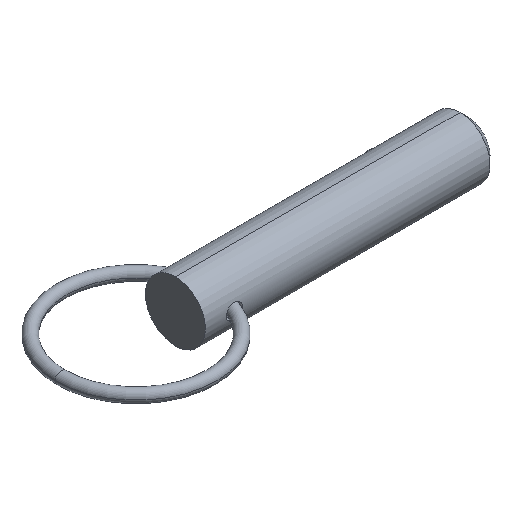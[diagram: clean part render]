
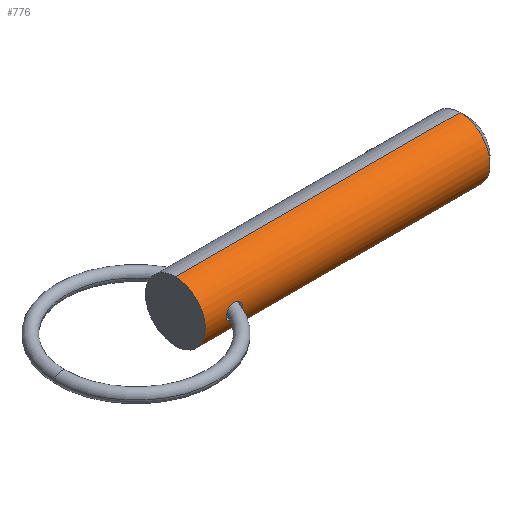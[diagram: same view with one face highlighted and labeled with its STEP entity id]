
A CAD part, isometric view. The second image highlights one B-rep face of the part: STEP entity #776.
In plain terms, the highlighted cylindrical face has radius 6.35 mm (diameter 12.7 mm), a partial arc.
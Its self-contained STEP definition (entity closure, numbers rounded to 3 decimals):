
#3 = CARTESIAN_POINT ( 'NONE',  ( 7.92, -6.35, 0. ) ) ;
#15 = CARTESIAN_POINT ( 'NONE',  ( 0., 0., -6.35 ) ) ;
#19 = VERTEX_POINT ( 'NONE', #216 ) ;
#29 = DIRECTION ( 'NONE',  ( 1., 0., 0. ) ) ;
#40 = CARTESIAN_POINT ( 'NONE',  ( 5.68, -6.172, -1.492 ) ) ;
#43 = ORIENTED_EDGE ( 'NONE', *, *, #159, .F. ) ;
#44 = CARTESIAN_POINT ( 'NONE',  ( 6.655, -6.155, -1.565 ) ) ;
#45 = CARTESIAN_POINT ( 'NONE',  ( 6.437, -6.149, 1.585 ) ) ;
#49 = CARTESIAN_POINT ( 'NONE',  ( 0., 0., -6.35 ) ) ;
#57 = CARTESIAN_POINT ( 'NONE',  ( 4.466, -6.347, -0.219 ) ) ;
#61 = CIRCLE ( 'NONE', #892, 6.35 ) ;
#63 = CARTESIAN_POINT ( 'NONE',  ( 6.652, -6.157, 1.554 ) ) ;
#80 = VERTEX_POINT ( 'NONE', #856 ) ;
#91 = ORIENTED_EDGE ( 'NONE', *, *, #175, .T. ) ;
#119 = CARTESIAN_POINT ( 'NONE',  ( 7.063, -6.191, 1.413 ) ) ;
#121 = CARTESIAN_POINT ( 'NONE',  ( 7.92, -6.35, -0.109 ) ) ;
#127 = FACE_BOUND ( 'NONE', #585, .T. ) ;
#128 = CARTESIAN_POINT ( 'NONE',  ( 4.452, -6.35, 0.219 ) ) ;
#133 = CARTESIAN_POINT ( 'NONE',  ( 6.759, -6.163, 1.529 ) ) ;
#136 = CARTESIAN_POINT ( 'NONE',  ( 5.191, -6.224, 1.268 ) ) ;
#159 = EDGE_CURVE ( 'NONE', #19, #80, #877, .T. ) ;
#167 = CARTESIAN_POINT ( 'NONE',  ( 60.313, 0., 0. ) ) ;
#175 = EDGE_CURVE ( 'NONE', #301, #754, #61, .T. ) ;
#176 = CARTESIAN_POINT ( 'NONE',  ( 0., 0., 6.35 ) ) ;
#186 = CARTESIAN_POINT ( 'NONE',  ( 4.452, -6.35, -0.109 ) ) ;
#187 = CARTESIAN_POINT ( 'NONE',  ( 4.452, -6.35, 0. ) ) ;
#188 = CARTESIAN_POINT ( 'NONE',  ( 5.104, -6.237, -1.196 ) ) ;
#192 = CARTESIAN_POINT ( 'NONE',  ( 7.25, -6.215, -1.302 ) ) ;
#194 = CARTESIAN_POINT ( 'NONE',  ( 7.875, -6.338, 0.437 ) ) ;
#216 = CARTESIAN_POINT ( 'NONE',  ( 60.313, 0., 6.35 ) ) ;
#219 = DIRECTION ( 'NONE',  ( 1., 0., 0. ) ) ;
#230 = VERTEX_POINT ( 'NONE', #187 ) ;
#249 = ORIENTED_EDGE ( 'NONE', *, *, #648, .F. ) ;
#256 = CARTESIAN_POINT ( 'NONE',  ( 7.909, -6.347, -0.22 ) ) ;
#267 = FACE_OUTER_BOUND ( 'NONE', #296, .T. ) ;
#268 = CARTESIAN_POINT ( 'NONE',  ( 6.329, -6.148, 1.59 ) ) ;
#270 = CARTESIAN_POINT ( 'NONE',  ( 6.434, -6.147, -1.595 ) ) ;
#276 = CARTESIAN_POINT ( 'NONE',  ( 4.86, -6.274, -0.98 ) ) ;
#293 = EDGE_CURVE ( 'NONE', #230, #568, #484, .T. ) ;
#296 = EDGE_LOOP ( 'NONE', ( #249, #91, #775, #43 ) ) ;
#301 = VERTEX_POINT ( 'NONE', #822 ) ;
#319 = LINE ( 'NONE', #176, #407 ) ;
#328 = CARTESIAN_POINT ( 'NONE',  ( 4.722, -6.298, -0.813 ) ) ;
#337 = CARTESIAN_POINT ( 'NONE',  ( 4.713, -6.3, 0.82 ) ) ;
#343 = CARTESIAN_POINT ( 'NONE',  ( 7.063, -6.191, -1.413 ) ) ;
#353 = CARTESIAN_POINT ( 'NONE',  ( 7.249, -6.215, 1.303 ) ) ;
#371 = ORIENTED_EDGE ( 'NONE', *, *, #293, .T. ) ;
#385 = DIRECTION ( 'NONE',  ( 1., 0., 0. ) ) ;
#399 = CARTESIAN_POINT ( 'NONE',  ( 7.746, -6.308, -0.737 ) ) ;
#402 = CARTESIAN_POINT ( 'NONE',  ( 4.662, -6.309, -0.723 ) ) ;
#407 = VECTOR ( 'NONE', #592, 1000. ) ;
#411 = CARTESIAN_POINT ( 'NONE',  ( 5.789, -6.164, 1.525 ) ) ;
#413 = CARTESIAN_POINT ( 'NONE',  ( 5.784, -6.165, -1.523 ) ) ;
#414 = CARTESIAN_POINT ( 'NONE',  ( 7.92, -6.35, 0.218 ) ) ;
#417 = CARTESIAN_POINT ( 'NONE',  ( 7.865, -6.336, -0.432 ) ) ;
#449 = VECTOR ( 'NONE', #219, 1000. ) ;
#482 = CARTESIAN_POINT ( 'NONE',  ( 7.568, -6.27, -1.008 ) ) ;
#483 = CARTESIAN_POINT ( 'NONE',  ( 4.452, -6.35, 0. ) ) ;
#484 = B_SPLINE_CURVE_WITH_KNOTS ( 'NONE', 3,
 ( #483, #128, #551, #337, #760, #136, #752, #623, #411, #685, #692, #268, #45, #63, #133, #619, #119, #353, #541, #629, #818, #194, #414, #889 ),
 .UNSPECIFIED., .F., .F.,
 ( 4, 2, 2, 2, 2, 2, 2, 2, 2, 2, 2, 4 ),
 ( 0.001, 0.002, 0.002, 0.003, 0.003, 0.004, 0.004, 0.004, 0.005, 0.005, 0.006, 0.006 ),
 .UNSPECIFIED. ) ;
#531 = CARTESIAN_POINT ( 'NONE',  ( 7.496, -6.256, -1.091 ) ) ;
#532 = AXIS2_PLACEMENT_3D ( 'NONE', #621, #891, #826 ) ;
#537 = CARTESIAN_POINT ( 'NONE',  ( 6.107, -6.15, -1.582 ) ) ;
#541 = CARTESIAN_POINT ( 'NONE',  ( 7.338, -6.229, 1.237 ) ) ;
#544 = CARTESIAN_POINT ( 'NONE',  ( 7.693, -6.296, -0.832 ) ) ;
#551 = CARTESIAN_POINT ( 'NONE',  ( 4.51, -6.338, 0.435 ) ) ;
#568 = VERTEX_POINT ( 'NONE', #3 ) ;
#573 = EDGE_CURVE ( 'NONE', #754, #80, #840, .T. ) ;
#584 = CARTESIAN_POINT ( 'NONE',  ( 0., 0., 0. ) ) ;
#585 = EDGE_LOOP ( 'NONE', ( #371, #708 ) ) ;
#592 = DIRECTION ( 'NONE',  ( 1., 0., 0. ) ) ;
#605 = CARTESIAN_POINT ( 'NONE',  ( 7.833, -6.328, -0.536 ) ) ;
#613 = CARTESIAN_POINT ( 'NONE',  ( 5.192, -6.225, -1.257 ) ) ;
#619 = CARTESIAN_POINT ( 'NONE',  ( 6.965, -6.181, 1.458 ) ) ;
#621 = CARTESIAN_POINT ( 'NONE',  ( 0., 0., 0. ) ) ;
#623 = CARTESIAN_POINT ( 'NONE',  ( 5.685, -6.172, 1.494 ) ) ;
#629 = CARTESIAN_POINT ( 'NONE',  ( 7.576, -6.27, 1.017 ) ) ;
#648 = EDGE_CURVE ( 'NONE', #301, #19, #319, .T. ) ;
#673 = B_SPLINE_CURVE_WITH_KNOTS ( 'NONE', 3,
 ( #759, #121, #256, #417, #605, #399, #544, #482, #531, #881, #192, #343, #746, #44, #270, #537, #812, #413, #40, #875, #694, #613, #188, #807, #276, #328, #402, #885, #820, #57, #186, #686 ),
 .UNSPECIFIED., .F., .F.,
 ( 4, 2, 2, 2, 2, 2, 2, 2, 2, 2, 2, 2, 2, 2, 2, 4 ),
 ( 0.006, 0.007, 0.007, 0.007, 0.008, 0.008, 0.008, 0.009, 0.009, 0.01, 0.01, 0.01, 0.011, 0.011, 0.011, 0.012 ),
 .UNSPECIFIED. ) ;
#685 = CARTESIAN_POINT ( 'NONE',  ( 6.002, -6.153, 1.569 ) ) ;
#686 = CARTESIAN_POINT ( 'NONE',  ( 4.452, -6.35, 0. ) ) ;
#692 = CARTESIAN_POINT ( 'NONE',  ( 6.111, -6.15, 1.582 ) ) ;
#694 = CARTESIAN_POINT ( 'NONE',  ( 5.378, -6.201, -1.366 ) ) ;
#708 = ORIENTED_EDGE ( 'NONE', *, *, #730, .T. ) ;
#730 = EDGE_CURVE ( 'NONE', #568, #230, #673, .T. ) ;
#746 = CARTESIAN_POINT ( 'NONE',  ( 6.963, -6.18, -1.459 ) ) ;
#752 = CARTESIAN_POINT ( 'NONE',  ( 5.381, -6.199, 1.378 ) ) ;
#754 = VERTEX_POINT ( 'NONE', #49 ) ;
#756 = CYLINDRICAL_SURFACE ( 'NONE', #532, 6.35 ) ;
#759 = CARTESIAN_POINT ( 'NONE',  ( 7.92, -6.35, 0. ) ) ;
#760 = CARTESIAN_POINT ( 'NONE',  ( 4.856, -6.274, 0.989 ) ) ;
#775 = ORIENTED_EDGE ( 'NONE', *, *, #573, .T. ) ;
#776 = ADVANCED_FACE ( 'NONE', ( #267, #127 ), #756, .T. ) ;
#798 = DIRECTION ( 'NONE',  ( 0., 0., -1. ) ) ;
#804 = DIRECTION ( 'NONE',  ( 0., 0., -1. ) ) ;
#807 = CARTESIAN_POINT ( 'NONE',  ( 4.938, -6.262, -1.058 ) ) ;
#812 = CARTESIAN_POINT ( 'NONE',  ( 5.998, -6.153, -1.568 ) ) ;
#818 = CARTESIAN_POINT ( 'NONE',  ( 7.704, -6.298, 0.835 ) ) ;
#820 = CARTESIAN_POINT ( 'NONE',  ( 4.52, -6.336, -0.428 ) ) ;
#822 = CARTESIAN_POINT ( 'NONE',  ( 0., 0., 6.35 ) ) ;
#826 = DIRECTION ( 'NONE',  ( 0., 0., -1. ) ) ;
#840 = LINE ( 'NONE', #15, #449 ) ;
#849 = AXIS2_PLACEMENT_3D ( 'NONE', #167, #385, #804 ) ;
#856 = CARTESIAN_POINT ( 'NONE',  ( 60.313, 0., -6.35 ) ) ;
#875 = CARTESIAN_POINT ( 'NONE',  ( 5.477, -6.191, -1.414 ) ) ;
#877 = CIRCLE ( 'NONE', #849, 6.35 ) ;
#881 = CARTESIAN_POINT ( 'NONE',  ( 7.336, -6.229, -1.238 ) ) ;
#885 = CARTESIAN_POINT ( 'NONE',  ( 4.56, -6.329, -0.53 ) ) ;
#889 = CARTESIAN_POINT ( 'NONE',  ( 7.92, -6.35, 0. ) ) ;
#891 = DIRECTION ( 'NONE',  ( 1., 0., 0. ) ) ;
#892 = AXIS2_PLACEMENT_3D ( 'NONE', #584, #29, #798 ) ;
